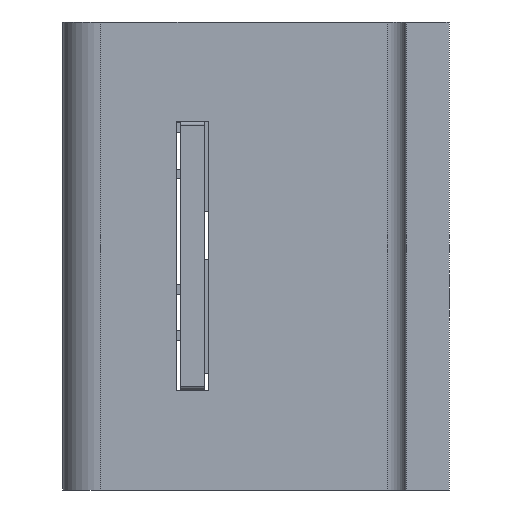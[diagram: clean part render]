
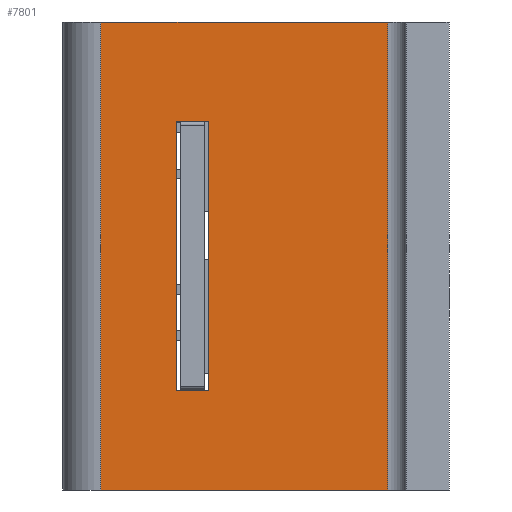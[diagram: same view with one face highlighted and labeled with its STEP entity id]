
A CAD part, front view. The second image highlights one B-rep face of the part: STEP entity #7801.
In plain terms, the highlighted planar face has unit normal (0, -1, 0).
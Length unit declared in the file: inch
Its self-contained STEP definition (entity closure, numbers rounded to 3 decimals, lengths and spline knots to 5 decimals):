
#24=DIRECTION('',(1.,0.,0.));
#25=VECTOR('',#24,0.728);
#26=CARTESIAN_POINT('',(-0.824,0.34,-1.188));
#27=LINE('',#26,#25);
#163=DIRECTION('',(1.,0.,0.));
#164=VECTOR('',#163,0.728);
#165=CARTESIAN_POINT('',(-0.824,0.34,0.));
#166=LINE('',#165,#164);
#297=DIRECTION('',(0.,0.,1.));
#298=VECTOR('',#297,1.188);
#299=CARTESIAN_POINT('',(-0.096,0.34,-1.188));
#300=LINE('',#299,#298);
#301=DIRECTION('',(0.,0.,1.));
#302=VECTOR('',#301,1.188);
#303=CARTESIAN_POINT('',(-0.824,0.34,-1.188));
#304=LINE('',#303,#302);
#305=DIRECTION('',(0.,0.,1.));
#306=VECTOR('',#305,0.684);
#307=CARTESIAN_POINT('',(-0.55,0.34,-0.936));
#308=LINE('',#307,#306);
#309=DIRECTION('',(-1.,0.,0.));
#310=VECTOR('',#309,0.082);
#311=CARTESIAN_POINT('',(-0.55,0.34,-0.252));
#312=LINE('',#311,#310);
#313=DIRECTION('',(0.,0.,-1.));
#314=VECTOR('',#313,0.684);
#315=CARTESIAN_POINT('',(-0.632,0.34,-0.252));
#316=LINE('',#315,#314);
#317=DIRECTION('',(1.,0.,0.));
#318=VECTOR('',#317,0.082);
#319=CARTESIAN_POINT('',(-0.632,0.34,-0.936));
#320=LINE('',#319,#318);
#5724=CARTESIAN_POINT('',(-0.824,0.34,-1.188));
#5726=VERTEX_POINT('',#5724);
#5727=CARTESIAN_POINT('',(-0.096,0.34,-1.188));
#5728=VERTEX_POINT('',#5727);
#5744=CARTESIAN_POINT('',(-0.824,0.34,0.));
#5746=VERTEX_POINT('',#5744);
#5747=CARTESIAN_POINT('',(-0.096,0.34,0.));
#5748=VERTEX_POINT('',#5747);
#5889=CARTESIAN_POINT('',(-0.55,0.34,-0.936));
#5890=CARTESIAN_POINT('',(-0.55,0.34,-0.252));
#5891=VERTEX_POINT('',#5889);
#5892=VERTEX_POINT('',#5890);
#5893=CARTESIAN_POINT('',(-0.632,0.34,-0.252));
#5894=VERTEX_POINT('',#5893);
#5895=CARTESIAN_POINT('',(-0.632,0.34,-0.936));
#5896=VERTEX_POINT('',#5895);
#7779=CARTESIAN_POINT('',(-0.824,0.34,-1.188));
#7780=DIRECTION('',(0.,-1.,0.));
#7781=DIRECTION('',(1.,0.,0.));
#7782=AXIS2_PLACEMENT_3D('',#7779,#7780,#7781);
#7783=PLANE('',#7782);
#7784=ORIENTED_EDGE('',*,*,#7554,.F.);
#7786=ORIENTED_EDGE('',*,*,#7785,.T.);
#7787=ORIENTED_EDGE('',*,*,#7662,.T.);
#7788=ORIENTED_EDGE('',*,*,#7770,.F.);
#7789=EDGE_LOOP('',(#7784,#7786,#7787,#7788));
#7790=FACE_OUTER_BOUND('',#7789,.F.);
#7792=ORIENTED_EDGE('',*,*,#7791,.T.);
#7794=ORIENTED_EDGE('',*,*,#7793,.T.);
#7796=ORIENTED_EDGE('',*,*,#7795,.T.);
#7798=ORIENTED_EDGE('',*,*,#7797,.T.);
#7799=EDGE_LOOP('',(#7792,#7794,#7796,#7798));
#7800=FACE_BOUND('',#7799,.F.);
#7801=ADVANCED_FACE('',(#7790,#7800),#7783,.T.);
#7554=EDGE_CURVE('',#5726,#5728,#27,.T.);
#7662=EDGE_CURVE('',#5746,#5748,#166,.T.);
#7770=EDGE_CURVE('',#5728,#5748,#300,.T.);
#7785=EDGE_CURVE('',#5726,#5746,#304,.T.);
#7791=EDGE_CURVE('',#5891,#5892,#308,.T.);
#7793=EDGE_CURVE('',#5892,#5894,#312,.T.);
#7795=EDGE_CURVE('',#5894,#5896,#316,.T.);
#7797=EDGE_CURVE('',#5896,#5891,#320,.T.);
